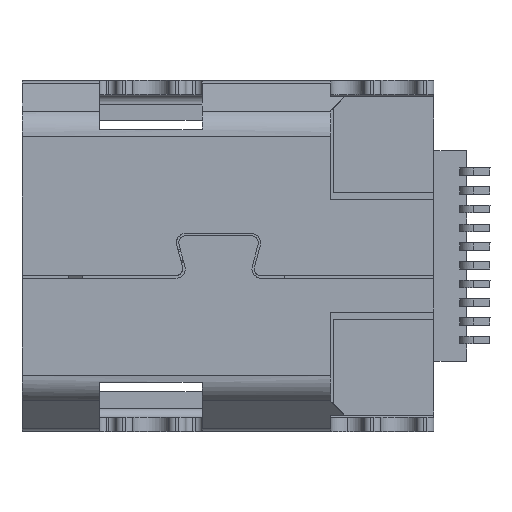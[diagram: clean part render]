
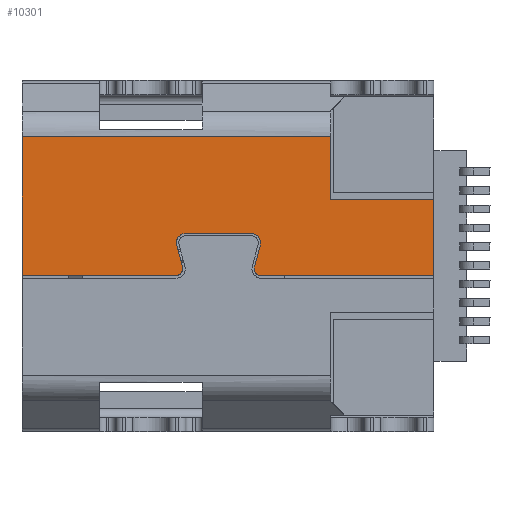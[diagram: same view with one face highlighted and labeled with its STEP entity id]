
A CAD part, top view. The second image highlights one B-rep face of the part: STEP entity #10301.
In plain terms, the highlighted planar face has unit normal (0, 0, 1).
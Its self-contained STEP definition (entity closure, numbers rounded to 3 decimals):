
#10114=CARTESIAN_POINT('Vertex',(-5.6,-0.42,1.7)) ;
#10128=CARTESIAN_POINT('Vertex',(-2.315,-0.42,1.7)) ;
#10131=CARTESIAN_POINT('Line Origine',(-3.957,-0.42,1.7)) ;
#10143=CARTESIAN_POINT('Axis2P3D Location',(-5.6,2.55,1.7)) ;
#10148=CARTESIAN_POINT('Line Origine',(-2.3,2.55,1.7)) ;
#10152=CARTESIAN_POINT('Vertex',(1.,2.55,1.7)) ;
#10154=CARTESIAN_POINT('Vertex',(-5.6,2.55,1.7)) ;
#10157=CARTESIAN_POINT('Line Origine',(-5.6,1.065,1.7)) ;
#10163=CARTESIAN_POINT('Control Point',(-2.17,-0.231,1.7)) ;
#10164=CARTESIAN_POINT('Control Point',(-2.164,-0.252,1.7)) ;
#10165=CARTESIAN_POINT('Control Point',(-2.163,-0.274,1.7)) ;
#10166=CARTESIAN_POINT('Control Point',(-2.165,-0.298,1.7)) ;
#10167=CARTESIAN_POINT('Control Point',(-2.178,-0.34,1.7)) ;
#10168=CARTESIAN_POINT('Control Point',(-2.205,-0.375,1.7)) ;
#10169=CARTESIAN_POINT('Control Point',(-2.223,-0.391,1.7)) ;
#10170=CARTESIAN_POINT('Control Point',(-2.251,-0.408,1.7)) ;
#10171=CARTESIAN_POINT('Control Point',(-2.282,-0.417,1.7)) ;
#10172=CARTESIAN_POINT('Control Point',(-2.293,-0.419,1.7)) ;
#10173=CARTESIAN_POINT('Control Point',(-2.304,-0.42,1.7)) ;
#10174=CARTESIAN_POINT('Control Point',(-2.315,-0.42,1.7)) ;
#10175=CARTESIAN_POINT('Vertex',(-2.17,-0.231,1.7)) ;
#10178=CARTESIAN_POINT('Line Origine',(-2.232,-0.001,1.7)) ;
#10182=CARTESIAN_POINT('Vertex',(-2.293,0.228,1.7)) ;
#10186=CARTESIAN_POINT('Control Point',(-2.1,0.48,1.7)) ;
#10187=CARTESIAN_POINT('Control Point',(-2.115,0.48,1.7)) ;
#10188=CARTESIAN_POINT('Control Point',(-2.129,0.479,1.7)) ;
#10189=CARTESIAN_POINT('Control Point',(-2.144,0.476,1.7)) ;
#10190=CARTESIAN_POINT('Control Point',(-2.172,0.468,1.7)) ;
#10191=CARTESIAN_POINT('Control Point',(-2.198,0.455,1.7)) ;
#10192=CARTESIAN_POINT('Control Point',(-2.211,0.447,1.7)) ;
#10193=CARTESIAN_POINT('Control Point',(-2.235,0.43,1.7)) ;
#10194=CARTESIAN_POINT('Control Point',(-2.255,0.408,1.7)) ;
#10195=CARTESIAN_POINT('Control Point',(-2.264,0.396,1.7)) ;
#10196=CARTESIAN_POINT('Control Point',(-2.279,0.371,1.7)) ;
#10197=CARTESIAN_POINT('Control Point',(-2.29,0.344,1.7)) ;
#10198=CARTESIAN_POINT('Control Point',(-2.295,0.33,1.7)) ;
#10199=CARTESIAN_POINT('Control Point',(-2.3,0.301,1.7)) ;
#10200=CARTESIAN_POINT('Control Point',(-2.301,0.272,1.7)) ;
#10201=CARTESIAN_POINT('Control Point',(-2.299,0.257,1.7)) ;
#10202=CARTESIAN_POINT('Control Point',(-2.297,0.242,1.7)) ;
#10203=CARTESIAN_POINT('Control Point',(-2.293,0.228,1.7)) ;
#10204=CARTESIAN_POINT('Vertex',(-2.1,0.48,1.7)) ;
#10207=CARTESIAN_POINT('Line Origine',(-1.4,0.48,1.7)) ;
#10211=CARTESIAN_POINT('Vertex',(-0.7,0.48,1.7)) ;
#10215=CARTESIAN_POINT('Control Point',(-0.507,0.228,1.7)) ;
#10216=CARTESIAN_POINT('Control Point',(-0.503,0.242,1.7)) ;
#10217=CARTESIAN_POINT('Control Point',(-0.501,0.257,1.7)) ;
#10218=CARTESIAN_POINT('Control Point',(-0.499,0.272,1.7)) ;
#10219=CARTESIAN_POINT('Control Point',(-0.5,0.301,1.7)) ;
#10220=CARTESIAN_POINT('Control Point',(-0.505,0.33,1.7)) ;
#10221=CARTESIAN_POINT('Control Point',(-0.51,0.344,1.7)) ;
#10222=CARTESIAN_POINT('Control Point',(-0.521,0.371,1.7)) ;
#10223=CARTESIAN_POINT('Control Point',(-0.536,0.396,1.7)) ;
#10224=CARTESIAN_POINT('Control Point',(-0.545,0.408,1.7)) ;
#10225=CARTESIAN_POINT('Control Point',(-0.565,0.43,1.7)) ;
#10226=CARTESIAN_POINT('Control Point',(-0.589,0.447,1.7)) ;
#10227=CARTESIAN_POINT('Control Point',(-0.602,0.455,1.7)) ;
#10228=CARTESIAN_POINT('Control Point',(-0.628,0.468,1.7)) ;
#10229=CARTESIAN_POINT('Control Point',(-0.656,0.476,1.7)) ;
#10230=CARTESIAN_POINT('Control Point',(-0.671,0.479,1.7)) ;
#10231=CARTESIAN_POINT('Control Point',(-0.685,0.48,1.7)) ;
#10232=CARTESIAN_POINT('Control Point',(-0.7,0.48,1.7)) ;
#10233=CARTESIAN_POINT('Vertex',(-0.507,0.228,1.7)) ;
#10236=CARTESIAN_POINT('Line Origine',(-0.569,-0.004,1.7)) ;
#10240=CARTESIAN_POINT('Vertex',(-0.631,-0.236,1.7)) ;
#10244=CARTESIAN_POINT('Control Point',(-0.486,-0.425,1.7)) ;
#10245=CARTESIAN_POINT('Control Point',(-0.508,-0.425,1.7)) ;
#10246=CARTESIAN_POINT('Control Point',(-0.53,-0.421,1.7)) ;
#10247=CARTESIAN_POINT('Control Point',(-0.552,-0.412,1.7)) ;
#10248=CARTESIAN_POINT('Control Point',(-0.59,-0.389,1.7)) ;
#10249=CARTESIAN_POINT('Control Point',(-0.616,-0.354,1.7)) ;
#10250=CARTESIAN_POINT('Control Point',(-0.627,-0.333,1.7)) ;
#10251=CARTESIAN_POINT('Control Point',(-0.636,-0.301,1.7)) ;
#10252=CARTESIAN_POINT('Control Point',(-0.637,-0.268,1.7)) ;
#10253=CARTESIAN_POINT('Control Point',(-0.636,-0.257,1.7)) ;
#10254=CARTESIAN_POINT('Control Point',(-0.634,-0.247,1.7)) ;
#10255=CARTESIAN_POINT('Control Point',(-0.631,-0.236,1.7)) ;
#10256=CARTESIAN_POINT('Vertex',(-0.486,-0.425,1.7)) ;
#10259=CARTESIAN_POINT('Line Origine',(1.357,-0.425,1.7)) ;
#10263=CARTESIAN_POINT('Vertex',(3.2,-0.425,1.7)) ;
#10266=CARTESIAN_POINT('Line Origine',(3.2,0.388,1.7)) ;
#10270=CARTESIAN_POINT('Vertex',(3.2,1.2,1.7)) ;
#10273=CARTESIAN_POINT('Line Origine',(2.1,1.2,1.7)) ;
#10277=CARTESIAN_POINT('Vertex',(1.,1.2,1.7)) ;
#10280=CARTESIAN_POINT('Line Origine',(1.,1.875,1.7)) ;
#10132=DIRECTION('Vector Direction',(-1.,0.,0.)) ;
#10144=DIRECTION('Axis2P3D Direction',(0.,0.,-1.)) ;
#10145=DIRECTION('Axis2P3D XDirection',(0.,-1.,0.)) ;
#10149=DIRECTION('Vector Direction',(-1.,0.,0.)) ;
#10158=DIRECTION('Vector Direction',(0.,1.,0.)) ;
#10179=DIRECTION('Vector Direction',(0.259,-0.966,0.)) ;
#10208=DIRECTION('Vector Direction',(-1.,0.,0.)) ;
#10237=DIRECTION('Vector Direction',(0.259,0.966,0.)) ;
#10260=DIRECTION('Vector Direction',(-1.,0.,0.)) ;
#10267=DIRECTION('Vector Direction',(0.,-1.,0.)) ;
#10274=DIRECTION('Vector Direction',(1.,0.,0.)) ;
#10281=DIRECTION('Vector Direction',(0.,-1.,0.)) ;
#10146=AXIS2_PLACEMENT_3D('Plane Axis2P3D',#10143,#10144,#10145) ;
#10286=ORIENTED_EDGE('',*,*,#10156,.T.) ;
#10287=ORIENTED_EDGE('',*,*,#10161,.F.) ;
#10288=ORIENTED_EDGE('',*,*,#10135,.F.) ;
#10289=ORIENTED_EDGE('',*,*,#10177,.F.) ;
#10290=ORIENTED_EDGE('',*,*,#10184,.F.) ;
#10291=ORIENTED_EDGE('',*,*,#10206,.F.) ;
#10292=ORIENTED_EDGE('',*,*,#10213,.F.) ;
#10293=ORIENTED_EDGE('',*,*,#10235,.F.) ;
#10294=ORIENTED_EDGE('',*,*,#10242,.F.) ;
#10295=ORIENTED_EDGE('',*,*,#10258,.F.) ;
#10296=ORIENTED_EDGE('',*,*,#10265,.F.) ;
#10297=ORIENTED_EDGE('',*,*,#10272,.F.) ;
#10298=ORIENTED_EDGE('',*,*,#10279,.F.) ;
#10299=ORIENTED_EDGE('',*,*,#10284,.F.) ;
#10133=VECTOR('Line Direction',#10132,1.) ;
#10150=VECTOR('Line Direction',#10149,1.) ;
#10159=VECTOR('Line Direction',#10158,1.) ;
#10180=VECTOR('Line Direction',#10179,1.) ;
#10209=VECTOR('Line Direction',#10208,1.) ;
#10238=VECTOR('Line Direction',#10237,1.) ;
#10261=VECTOR('Line Direction',#10260,1.) ;
#10268=VECTOR('Line Direction',#10267,1.) ;
#10275=VECTOR('Line Direction',#10274,1.) ;
#10282=VECTOR('Line Direction',#10281,1.) ;
#10301=ADVANCED_FACE('',(#10300),#10147,.F.) ;
#10162=B_SPLINE_CURVE_WITH_KNOTS('',5,(#10163,#10164,#10165,#10166,#10167,#10168,#10169,#10170,#10171,#10172,#10173,#10174),.UNSPECIFIED.,.F.,.U.,(6,3,3,6),(0.,0.155,0.309,0.387),.UNSPECIFIED.) ;
#10185=B_SPLINE_CURVE_WITH_KNOTS('',5,(#10186,#10187,#10188,#10189,#10190,#10191,#10192,#10193,#10194,#10195,#10196,#10197,#10198,#10199,#10200,#10201,#10202,#10203),.UNSPECIFIED.,.F.,.U.,(6,3,3,3,3,6),(0.,0.104,0.207,0.311,0.414,0.518),.UNSPECIFIED.) ;
#10214=B_SPLINE_CURVE_WITH_KNOTS('',5,(#10215,#10216,#10217,#10218,#10219,#10220,#10221,#10222,#10223,#10224,#10225,#10226,#10227,#10228,#10229,#10230,#10231,#10232),.UNSPECIFIED.,.F.,.U.,(6,3,3,3,3,6),(0.,0.104,0.207,0.311,0.414,0.518),.UNSPECIFIED.) ;
#10243=B_SPLINE_CURVE_WITH_KNOTS('',5,(#10244,#10245,#10246,#10247,#10248,#10249,#10250,#10251,#10252,#10253,#10254,#10255),.UNSPECIFIED.,.F.,.U.,(6,3,3,6),(0.,0.155,0.309,0.387),.UNSPECIFIED.) ;
#10135=EDGE_CURVE('',#10129,#10115,#10134,.T.) ;
#10156=EDGE_CURVE('',#10153,#10155,#10151,.T.) ;
#10161=EDGE_CURVE('',#10115,#10155,#10160,.T.) ;
#10177=EDGE_CURVE('',#10176,#10129,#10162,.T.) ;
#10184=EDGE_CURVE('',#10183,#10176,#10181,.T.) ;
#10206=EDGE_CURVE('',#10205,#10183,#10185,.T.) ;
#10213=EDGE_CURVE('',#10212,#10205,#10210,.T.) ;
#10235=EDGE_CURVE('',#10234,#10212,#10214,.T.) ;
#10242=EDGE_CURVE('',#10241,#10234,#10239,.T.) ;
#10258=EDGE_CURVE('',#10257,#10241,#10243,.T.) ;
#10265=EDGE_CURVE('',#10264,#10257,#10262,.T.) ;
#10272=EDGE_CURVE('',#10271,#10264,#10269,.T.) ;
#10279=EDGE_CURVE('',#10278,#10271,#10276,.T.) ;
#10284=EDGE_CURVE('',#10153,#10278,#10283,.T.) ;
#10285=EDGE_LOOP('',(#10286,#10287,#10288,#10289,#10290,#10291,#10292,#10293,#10294,#10295,#10296,#10297,#10298,#10299)) ;
#10300=FACE_OUTER_BOUND('',#10285,.T.) ;
#10134=LINE('Line',#10131,#10133) ;
#10151=LINE('Line',#10148,#10150) ;
#10160=LINE('Line',#10157,#10159) ;
#10181=LINE('Line',#10178,#10180) ;
#10210=LINE('Line',#10207,#10209) ;
#10239=LINE('Line',#10236,#10238) ;
#10262=LINE('Line',#10259,#10261) ;
#10269=LINE('Line',#10266,#10268) ;
#10276=LINE('Line',#10273,#10275) ;
#10283=LINE('Line',#10280,#10282) ;
#10147=PLANE('Plane',#10146) ;
#10115=VERTEX_POINT('',#10114) ;
#10129=VERTEX_POINT('',#10128) ;
#10153=VERTEX_POINT('',#10152) ;
#10155=VERTEX_POINT('',#10154) ;
#10176=VERTEX_POINT('',#10175) ;
#10183=VERTEX_POINT('',#10182) ;
#10205=VERTEX_POINT('',#10204) ;
#10212=VERTEX_POINT('',#10211) ;
#10234=VERTEX_POINT('',#10233) ;
#10241=VERTEX_POINT('',#10240) ;
#10257=VERTEX_POINT('',#10256) ;
#10264=VERTEX_POINT('',#10263) ;
#10271=VERTEX_POINT('',#10270) ;
#10278=VERTEX_POINT('',#10277) ;
